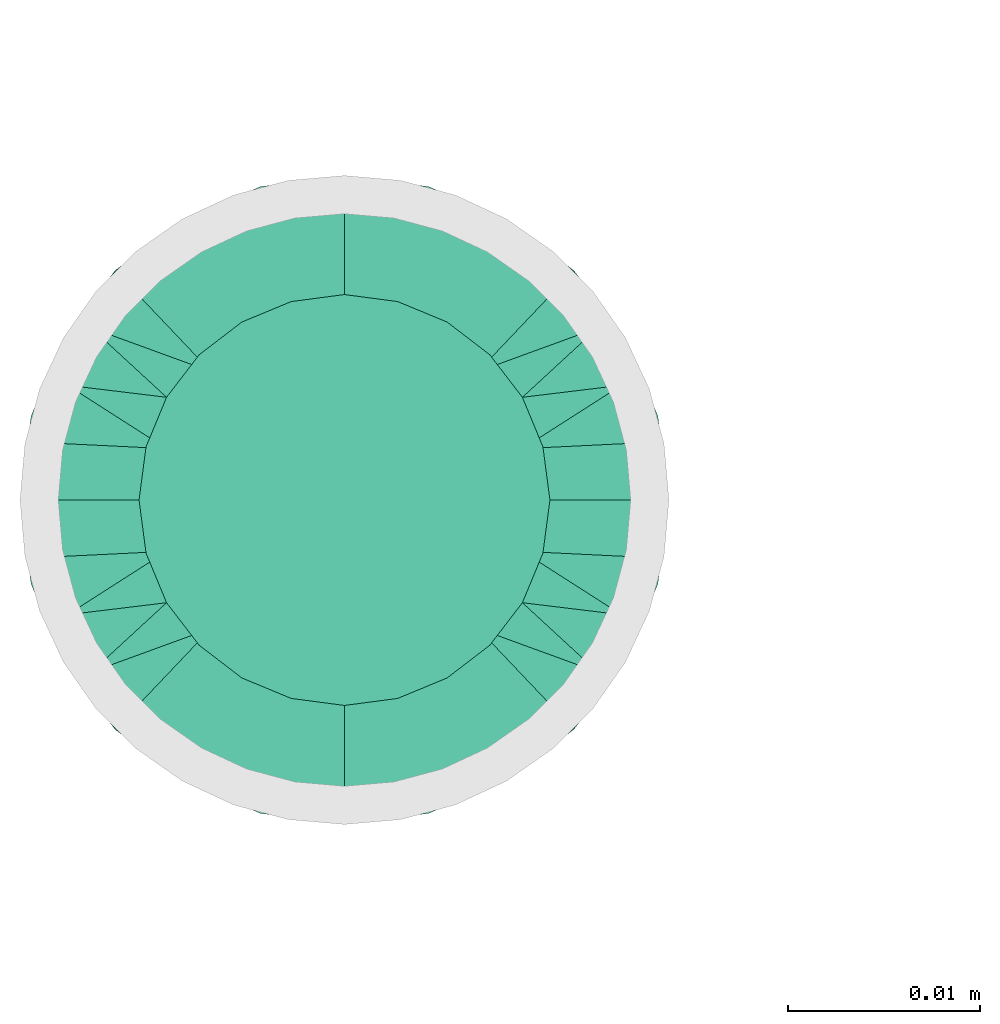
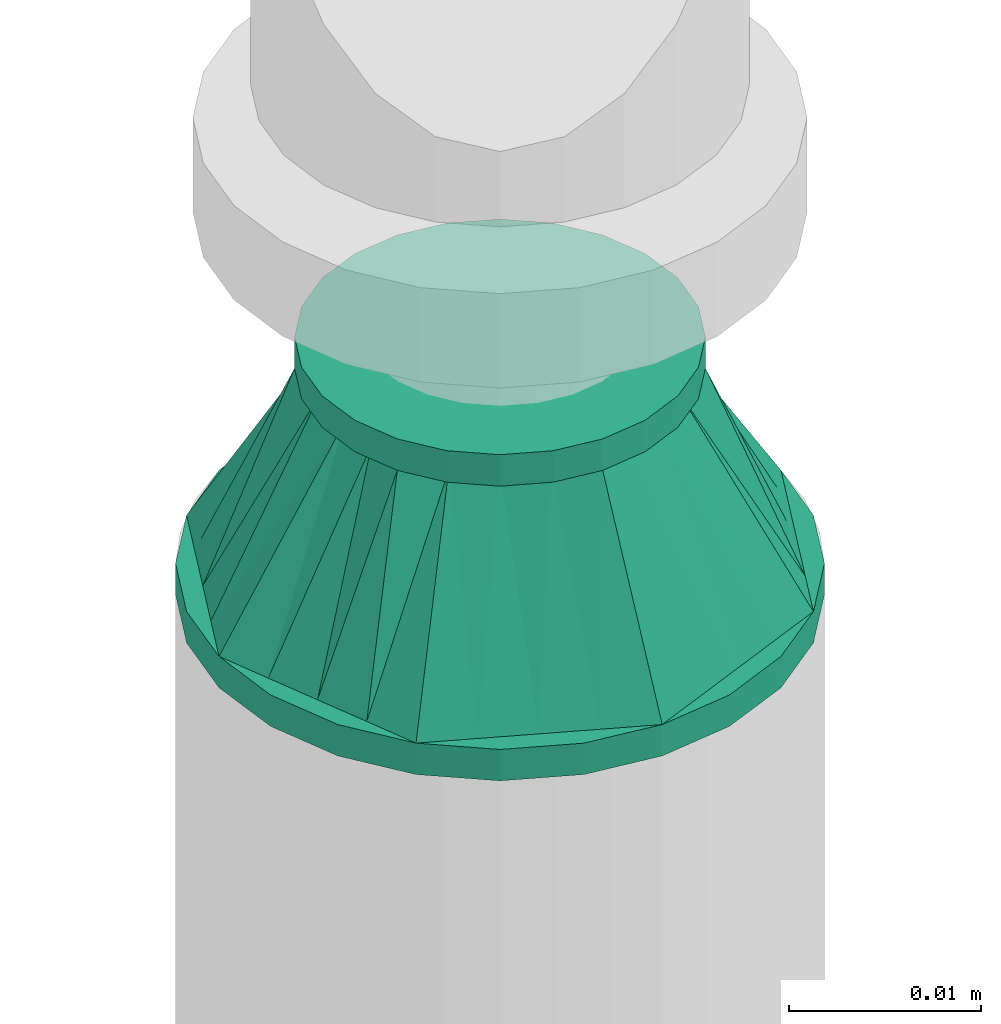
# One storey, part 1 of 44: 1 flow fitting.
"""IFC2X3 building model written with IfcOpenShell, lengths in millimetres."""

from ifc_helpers import new_model, entity, si_unit, converted_unit, derived_unit, direction, frame, origin_with_axes, place, context, subcontext, project, spatial, open_shell, surface_model, source, transform, mapped, type_object, element, save


model = new_model("IFC2X3")

# Units and contexts
model_context = context("Model", 3, precision=0.01, world=frame((0.0, 4.29681676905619e-09, 0.0)), true_north=direction((4.01073788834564e-13, 1.0)))
plan_context = context("Plan", 3, precision=0.01, world=frame((0.0, 4.29681676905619e-09, 0.0)), true_north=direction((4.01073788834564e-13, 1.0)))
body_context = subcontext(model_context, "Body", "Model", "MODEL_VIEW")
ifc_project = project(units=[converted_unit("PLANEANGLEUNIT", "DEGREE", entity("IfcPositiveLengthMeasure", 0.0174532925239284), si_unit("PLANEANGLEUNIT", "RADIAN"), dimensions=[0, 0, 0, 0, 0, 0, 0]), si_unit("AREAUNIT", "SQUARE_METRE"), si_unit("LENGTHUNIT", "METRE", prefix="MILLI"), si_unit("MASSUNIT", "GRAM", prefix="KILO"), si_unit("POWERUNIT", "WATT"), si_unit("PRESSUREUNIT", "PASCAL"), si_unit("FORCEUNIT", "NEWTON", prefix="KILO"), si_unit("ELECTRICVOLTAGEUNIT", "VOLT"), si_unit("ELECTRICCURRENTUNIT", "AMPERE"), si_unit("THERMODYNAMICTEMPERATUREUNIT", "DEGREE_CELSIUS"), si_unit("TIMEUNIT", "SECOND"), si_unit("VOLUMEUNIT", "CUBIC_METRE"), derived_unit("LINEARVELOCITYUNIT", [(si_unit("LENGTHUNIT", "METRE"), 1), (si_unit("TIMEUNIT", "SECOND"), -1)]), derived_unit("VOLUMETRICFLOWRATEUNIT", [(si_unit("VOLUMEUNIT", "CUBIC_METRE"), 1), (si_unit("TIMEUNIT", "SECOND"), -1)]), derived_unit("THERMALTRANSMITTANCEUNIT", [(si_unit("POWERUNIT", "WATT"), 1), (si_unit("THERMODYNAMICTEMPERATUREUNIT", "KELVIN"), -1), (si_unit("AREAUNIT", "SQUARE_METRE"), -1)]), derived_unit("SOUNDPRESSUREUNIT", [(si_unit("PRESSUREUNIT", "PASCAL"), 1)])], contexts=[model_context, plan_context])

# Site, building, storey
site_placement = place(None, frame((0.0, -4.29681676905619e-09, 0.0), z_axis=(0.0, 0.0, 1.0), x_axis=(1.0, 0.0, 0.0)))
site = spatial("IfcSite", under=ifc_project, at=site_placement, CompositionType="ELEMENT")
building_placement = place(site_placement, frame((0.0, 4.29681676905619e-09, 0.0), z_axis=(0.0, 0.0, 1.0), x_axis=(1.0, 0.0, 0.0)))
building = spatial("IfcBuilding", under=site, at=building_placement, Name="mc-building", CompositionType="ELEMENT")
storey_placement = place(building_placement, frame((0.0, 0.0, 207370.0), z_axis=(0.0, 0.0, 1.0), x_axis=(1.0, 0.0, 0.0)))
storey = spatial("IfcBuildingStorey", under=building, at=storey_placement, Name="Nivå E", CompositionType="ELEMENT", Elevation=207370.0)

# Flow fitting
pipe_fitting_type = type_object("IfcPipeFittingType", Name="magi_pipe_fe_reducer_centric_short_NOR", PredefinedType="TRANSITION")
shared_shape = source(origin_with_axes(), body_context, "Body", "SurfaceModel", [
    surface_model("IfcShellBasedSurfaceModel", [(-2.0, -7.56604, -7.56604), (-2.0, -10.33541, -2.76936), (-2.0, -5.35, -9.26647), (-2.0, 5.35, -9.26647), (-2.0, 10.33541, -2.76936), (-2.0, 7.56604, -7.56604), (12.4, 11.9501, 11.9501), (12.4, 0.0, 16.9), (12.4, 11.9501, -11.9501), (12.4, 16.9, 0.0), (0.0, -10.7, 0.0), (0.0, -5.35, 9.26647), (0.0, -5.35, -9.26647), (0.0, 10.7, 0.0), (12.4, 15.66253, -2.98753), (12.4, 8.96258, -13.18758), (0.0, 6.6875, -6.94985), (12.4, -15.66253, -2.98753), (12.4, -16.9, 0.0), (12.4, 5.97505, -14.42505), (0.0, 5.35, -9.26647), (12.4, 14.42505, -5.97505), (0.0, 8.025, -4.63324), (0.0, 9.3625, -2.31662), (0.0, -9.3625, -2.31662), (0.0, -8.025, -4.63324), (12.4, -14.42505, -5.97505), (12.4, 13.18758, -8.96258), (12.4, -13.18758, -8.96258), (12.4, -11.9501, -11.9501), (0.0, -6.6875, -6.94985), (12.4, -8.96258, -13.18758), (12.4, -5.97505, -14.42505), (12.4, -15.66253, 2.98753), (12.4, -8.96258, 13.18758), (0.0, -6.6875, 6.94985), (12.4, -11.9501, 11.9501), (12.4, 15.66253, 2.98753), (12.4, -5.97505, 14.42505), (12.4, -14.42505, 5.97505), (0.0, -8.025, 4.63324), (0.0, -9.3625, 2.31662), (0.0, 9.3625, 2.31662), (0.0, 8.025, 4.63324), (12.4, 14.42505, 5.97505), (12.4, -13.18758, 8.96258), (12.4, 13.18758, 8.96258), (0.0, 6.6875, 6.94985), (12.4, 8.96258, 13.18758), (0.0, 5.35, 9.26647), (12.4, 5.97505, 14.42505), (14.4, 4.37404, -16.32415), (14.4, 8.45, -14.63583), (14.4, 11.9501, -11.9501), (14.4, -8.45, -14.63583), (14.4, 16.32415, -4.37404), (14.4, 16.32415, 4.37404), (14.4, 14.63583, -8.45), (14.4, 0.0, -16.9), (14.4, -4.37404, -16.32415), (14.4, -11.9501, -11.9501), (14.4, -16.32415, -4.37404), (14.4, -14.63583, -8.45), (14.4, -16.32415, 4.37404), (14.4, 16.9, 0.0), (14.4, 14.63583, 8.45), (14.4, 11.9501, 11.9501), (14.4, 4.37404, 16.32415), (14.4, 8.45, 14.63583), (14.4, 0.0, 16.9), (14.4, -14.63583, 8.45), (14.4, -16.9, 0.0), (14.4, -8.45, 14.63583), (14.4, -11.9501, 11.9501), (14.4, -4.37404, 16.32415), (12.4, 4.37404, 16.32415), (12.4, -14.63583, 8.45), (12.4, 16.32415, 4.37404), (12.4, 8.45, 14.63583), (12.4, 14.63583, 8.45), (12.4, -8.45, 14.63583), (12.4, -4.37404, 16.32415), (12.4, -16.32415, 4.37404), (12.4, -16.32415, -4.37404), (12.4, -8.45, -14.63583), (12.4, 16.32415, -4.37404), (12.4, 14.63583, -8.45), (12.4, 8.45, -14.63583), (12.4, 4.37404, -16.32415), (12.4, 0.0, -16.9), (12.4, -14.63583, -8.45), (12.4, -4.37404, -16.32415), (-2.0, 2.76936, 10.33541), (-2.0, 0.0, 10.7), (-2.0, 5.35, 9.26647), (-2.0, 7.56604, 7.56604), (-2.0, 9.26647, 5.35), (-2.0, 10.33541, 2.76936), (-2.0, -10.33541, 2.76936), (-2.0, -2.76936, 10.33541), (-2.0, -7.56604, 7.56604), (-2.0, -5.35, 9.26647), (-2.0, -9.26647, 5.35), (-2.0, -10.7, 0.0), (-2.0, 9.26647, -5.35), (-2.0, 2.76936, -10.33541), (-2.0, -9.26647, -5.35), (-2.0, 0.0, -10.7), (-2.0, -2.76936, -10.33541), (-2.0, 10.7, 0.0), (0.0, 0.0, -10.7), (0.0, 2.76936, -10.33541), (0.0, 10.33541, -2.76936), (0.0, 7.56604, -7.56604), (0.0, -10.33541, -2.76936), (0.0, 9.26647, -5.35), (0.0, 0.0, 10.7), (0.0, -2.76936, -10.33541), (0.0, -7.56604, -7.56604), (0.0, -9.26647, -5.35), (0.0, 10.33541, 2.76936), (0.0, 9.26647, 5.35), (0.0, 7.56604, 7.56604), (0.0, 2.76936, 10.33541), (0.0, -7.56604, 7.56604), (0.0, -10.33541, 2.76936), (0.0, -9.26647, 5.35), (0.0, -2.76936, 10.33541), (0.0, 2.675, -9.26647), (0.0, -2.675, -9.26647), (12.4, 2.98753, -15.66253), (0.0, 0.0, -9.26647), (12.4, -2.98753, -15.66253), (0.0, -2.675, 9.26647), (0.0, 2.675, 9.26647), (12.4, -2.98753, 15.66253), (0.0, 0.0, 9.26647), (12.4, 2.98753, 15.66253)], [open_shell([[[0, 1, 2]], [[3, 4, 5]], [[6, 7, 8]], [[8, 9, 6]], [[10, 11, 12]], [[13, 9, 14]], [[15, 16, 8]], [[17, 18, 10]], [[15, 19, 20]], [[21, 22, 23]], [[24, 25, 26]], [[22, 21, 27]], [[28, 26, 25]], [[29, 30, 31]], [[12, 32, 31]], [[10, 18, 33]], [[34, 35, 36]], [[37, 9, 13]], [[34, 38, 11]], [[39, 40, 41]], [[42, 43, 44]], [[40, 39, 45]], [[46, 44, 43]], [[6, 47, 48]], [[49, 50, 48]], [[51, 52, 53]], [[54, 51, 53]], [[53, 55, 56]], [[55, 53, 57]], [[53, 56, 54]], [[58, 54, 59]], [[58, 51, 54]], [[60, 61, 62]], [[61, 60, 54]], [[54, 63, 61]], [[56, 55, 64]], [[56, 65, 66]], [[56, 66, 67]], [[67, 63, 54]], [[67, 66, 68]], [[63, 67, 69]], [[69, 70, 63]], [[71, 61, 63]], [[70, 72, 73]], [[70, 69, 72]], [[72, 69, 74]], [[54, 56, 67]], [[75, 76, 7]], [[77, 75, 78]], [[6, 79, 77]], [[6, 77, 78]], [[76, 75, 77]], [[80, 76, 36]], [[80, 81, 7]], [[7, 76, 80]], [[82, 76, 77]], [[82, 83, 18]], [[82, 77, 84]], [[77, 85, 8]], [[8, 85, 86]], [[8, 87, 88]], [[84, 77, 8]], [[88, 89, 8]], [[83, 29, 90]], [[29, 83, 84]], [[84, 89, 91]], [[83, 82, 84]], [[8, 89, 84]], [[85, 77, 9]], [[83, 61, 18]], [[90, 62, 83]], [[54, 29, 84]], [[90, 29, 60]], [[59, 84, 91]], [[83, 62, 61]], [[61, 71, 18]], [[59, 54, 84]], [[60, 29, 54]], [[60, 62, 90]], [[58, 59, 91]], [[91, 89, 58]], [[88, 51, 89]], [[87, 52, 88]], [[57, 8, 86]], [[87, 8, 53]], [[55, 86, 85]], [[87, 53, 52]], [[52, 51, 88]], [[64, 55, 85]], [[57, 86, 55]], [[57, 53, 8]], [[9, 64, 85]], [[89, 51, 58]], [[77, 56, 9]], [[79, 65, 77]], [[68, 6, 78]], [[79, 6, 66]], [[67, 78, 75]], [[77, 65, 56]], [[56, 64, 9]], [[67, 68, 78]], [[66, 6, 68]], [[66, 65, 79]], [[69, 67, 75]], [[75, 7, 69]], [[81, 74, 7]], [[80, 72, 81]], [[70, 36, 76]], [[80, 36, 73]], [[63, 76, 82]], [[80, 73, 72]], [[72, 74, 81]], [[71, 63, 82]], [[70, 76, 63]], [[70, 73, 36]], [[18, 71, 82]], [[7, 74, 69]], [[92, 1, 93]], [[94, 1, 92]], [[95, 96, 97]], [[95, 97, 94]], [[98, 93, 1]], [[99, 100, 101]], [[99, 93, 100]], [[100, 98, 102]], [[93, 98, 100]], [[98, 1, 103]], [[94, 97, 1]], [[1, 97, 4]], [[5, 4, 104]], [[4, 3, 1]], [[105, 1, 3]], [[1, 0, 106]], [[2, 107, 108]], [[2, 1, 105]], [[105, 107, 2]], [[4, 97, 109]], [[20, 110, 111]], [[112, 20, 113]], [[114, 20, 112]], [[112, 113, 115]], [[116, 114, 112]], [[110, 12, 117]], [[110, 20, 12]], [[118, 114, 119]], [[114, 118, 12]], [[20, 114, 12]], [[112, 13, 120]], [[120, 121, 122]], [[120, 122, 123]], [[116, 112, 123]], [[123, 122, 49]], [[116, 124, 114]], [[125, 124, 126]], [[10, 114, 125]], [[124, 127, 11]], [[125, 114, 124]], [[127, 124, 116]], [[123, 112, 120]], [[1, 114, 103]], [[106, 119, 1]], [[12, 0, 2]], [[106, 0, 118]], [[117, 2, 108]], [[1, 119, 114]], [[114, 10, 103]], [[117, 12, 2]], [[118, 0, 12]], [[118, 119, 106]], [[110, 117, 108]], [[108, 107, 110]], [[105, 111, 107]], [[3, 20, 105]], [[115, 5, 104]], [[3, 5, 113]], [[112, 104, 4]], [[3, 113, 20]], [[20, 111, 105]], [[13, 112, 4]], [[115, 104, 112]], [[115, 113, 5]], [[109, 13, 4]], [[107, 111, 110]], [[97, 120, 109]], [[96, 121, 97]], [[49, 95, 94]], [[96, 95, 122]], [[123, 94, 92]], [[97, 121, 120]], [[120, 13, 109]], [[123, 49, 94]], [[122, 95, 49]], [[122, 121, 96]], [[116, 123, 92]], [[92, 93, 116]], [[99, 127, 93]], [[101, 11, 99]], [[126, 100, 102]], [[101, 100, 124]], [[125, 102, 98]], [[101, 124, 11]], [[11, 127, 99]], [[10, 125, 98]], [[126, 102, 125]], [[126, 124, 100]], [[103, 10, 98]], [[93, 127, 116]], [[18, 7, 36]], [[18, 29, 8]], [[89, 8, 29]], [[18, 8, 7]], [[13, 11, 49]], [[13, 20, 12]], [[13, 12, 11]], [[24, 26, 17]], [[10, 24, 17]], [[16, 15, 20]], [[30, 12, 31]], [[23, 14, 21]], [[19, 128, 20]], [[27, 8, 16]], [[32, 12, 129]], [[30, 28, 25]], [[130, 131, 128]], [[129, 132, 32]], [[16, 22, 27]], [[13, 14, 23]], [[128, 19, 130]], [[130, 89, 131]], [[131, 132, 129]], [[89, 132, 131]], [[28, 30, 29]], [[42, 44, 37]], [[13, 42, 37]], [[35, 34, 11]], [[47, 49, 48]], [[41, 33, 39]], [[38, 133, 11]], [[45, 36, 35]], [[50, 49, 134]], [[47, 46, 43]], [[135, 136, 133]], [[134, 137, 50]], [[35, 40, 45]], [[10, 33, 41]], [[133, 38, 135]], [[135, 7, 136]], [[136, 137, 134]], [[7, 137, 136]], [[46, 47, 6]]])]),
])
flow_fitting_placement = place(storey_placement, frame((521500.0, 447269.83177, 3040.00555), z_axis=(1.0, 0.0, 0.0), x_axis=(0.0, 0.0, -1.0)))
element("IfcFlowFitting", 1, at=flow_fitting_placement, inside=storey, type_object=pipe_fitting_type, Name="magi_pipe_fe_reducer_centric_short_NOR", context=body_context, shape_type="MappedRepresentation", body=[
    mapped(shared_shape, transform((0.0, 0.0, 0.0), scale=1.0)),
])

save(model, "model.ifc")
